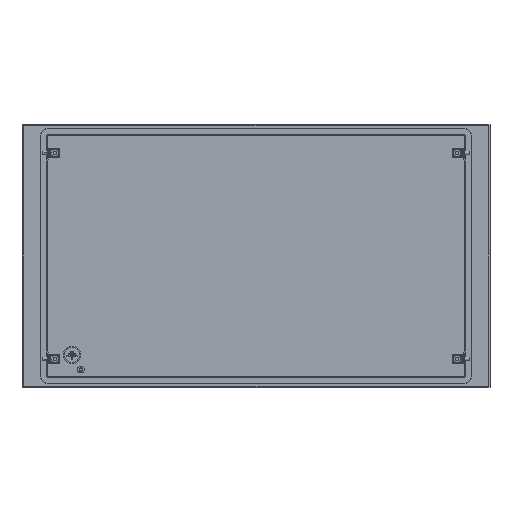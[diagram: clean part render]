
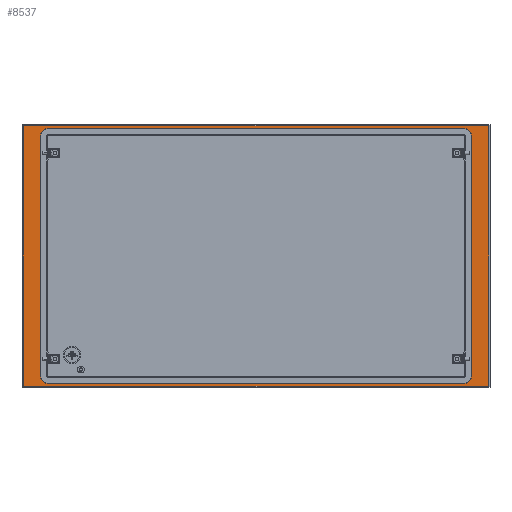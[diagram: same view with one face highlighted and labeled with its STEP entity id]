
A CAD part, left-side view. The second image highlights one B-rep face of the part: STEP entity #8537.
In plain terms, the highlighted planar face has unit normal (-1, 0, 0).
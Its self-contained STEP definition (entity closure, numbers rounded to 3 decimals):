
#523 = EDGE_CURVE ( 'NONE', #20564, #13472, #8867, .T. ) ;
#558 = VERTEX_POINT ( 'NONE', #14496 ) ;
#729 = ORIENTED_EDGE ( 'NONE', *, *, #523, .T. ) ;
#779 = EDGE_CURVE ( 'NONE', #7668, #10194, #19080, .T. ) ;
#822 = ORIENTED_EDGE ( 'NONE', *, *, #7409, .T. ) ;
#883 = DIRECTION ( 'NONE',  ( 1., 0., 0. ) ) ;
#1053 = CARTESIAN_POINT ( 'NONE',  ( -2., 395.5, 221. ) ) ;
#1767 = PLANE ( 'NONE',  #15603 ) ;
#2102 = AXIS2_PLACEMENT_3D ( 'NONE', #3282, #883, #22499 ) ;
#2331 = CARTESIAN_POINT ( 'NONE',  ( -2., 0., 221. ) ) ;
#2522 = DIRECTION ( 'NONE',  ( 0., -1., 0. ) ) ;
#2584 = CIRCLE ( 'NONE', #12875, 14. ) ;
#3201 = DIRECTION ( 'NONE',  ( 0., 0., 1. ) ) ;
#3282 = CARTESIAN_POINT ( 'NONE',  ( -2., -352.5, -203. ) ) ;
#3383 = EDGE_CURVE ( 'NONE', #7668, #9362, #13545, .T. ) ;
#3514 = EDGE_LOOP ( 'NONE', ( #5563, #4329, #15814, #6604, #729, #10482, #17433, #14464 ) ) ;
#3543 = CARTESIAN_POINT ( 'NONE',  ( -2., -395.5, 0. ) ) ;
#4041 = DIRECTION ( 'NONE',  ( 0., 1., 0. ) ) ;
#4329 = ORIENTED_EDGE ( 'NONE', *, *, #3383, .T. ) ;
#4439 = LINE ( 'NONE', #21858, #18598 ) ;
#4996 = CARTESIAN_POINT ( 'NONE',  ( -2., -352.5, -217. ) ) ;
#5563 = ORIENTED_EDGE ( 'NONE', *, *, #779, .F. ) ;
#6496 = EDGE_CURVE ( 'NONE', #10194, #12748, #8165, .T. ) ;
#6604 = ORIENTED_EDGE ( 'NONE', *, *, #15877, .T. ) ;
#6771 = LINE ( 'NONE', #16137, #17689 ) ;
#6888 = LINE ( 'NONE', #8828, #12759 ) ;
#7409 = EDGE_CURVE ( 'NONE', #14954, #558, #6888, .T. ) ;
#7623 = CARTESIAN_POINT ( 'NONE',  ( -2., -352.5, 217. ) ) ;
#7668 = VERTEX_POINT ( 'NONE', #16605 ) ;
#8102 = CARTESIAN_POINT ( 'NONE',  ( -2., 366.5, 203. ) ) ;
#8165 = LINE ( 'NONE', #19541, #22055 ) ;
#8519 = DIRECTION ( 'NONE',  ( -1., 0., 0. ) ) ;
#8537 = ADVANCED_FACE ( 'NONE', ( #21218, #17629 ), #1767, .F. ) ;
#8828 = CARTESIAN_POINT ( 'NONE',  ( -2., 395.5, 0. ) ) ;
#8843 = DIRECTION ( 'NONE',  ( 1., 0., 0. ) ) ;
#8867 = CIRCLE ( 'NONE', #9668, 14. ) ;
#9299 = EDGE_CURVE ( 'NONE', #9362, #12705, #13212, .T. ) ;
#9362 = VERTEX_POINT ( 'NONE', #19296 ) ;
#9429 = DIRECTION ( 'NONE',  ( 0., 0., -1. ) ) ;
#9598 = DIRECTION ( 'NONE',  ( 0., 0., 1. ) ) ;
#9668 = AXIS2_PLACEMENT_3D ( 'NONE', #18427, #8843, #14736 ) ;
#9894 = EDGE_CURVE ( 'NONE', #13472, #20203, #6771, .T. ) ;
#10181 = DIRECTION ( 'NONE',  ( 0., 1., 0. ) ) ;
#10194 = VERTEX_POINT ( 'NONE', #7623 ) ;
#10482 = ORIENTED_EDGE ( 'NONE', *, *, #9894, .T. ) ;
#10574 = EDGE_CURVE ( 'NONE', #12748, #20203, #2584, .T. ) ;
#10763 = CARTESIAN_POINT ( 'NONE',  ( -2., -352.5, -217. ) ) ;
#11395 = VECTOR ( 'NONE', #9429, 1000. ) ;
#11813 = EDGE_CURVE ( 'NONE', #558, #19442, #4439, .T. ) ;
#12120 = LINE ( 'NONE', #2331, #25050 ) ;
#12573 = DIRECTION ( 'NONE',  ( 0., 1., 0. ) ) ;
#12705 = VERTEX_POINT ( 'NONE', #4996 ) ;
#12748 = VERTEX_POINT ( 'NONE', #17652 ) ;
#12759 = VECTOR ( 'NONE', #19044, 1000. ) ;
#12760 = CARTESIAN_POINT ( 'NONE',  ( -2., 352.5, 203. ) ) ;
#12875 = AXIS2_PLACEMENT_3D ( 'NONE', #12760, #18591, #3201 ) ;
#13212 = CIRCLE ( 'NONE', #2102, 14. ) ;
#13293 = EDGE_CURVE ( 'NONE', #19442, #20496, #13960, .T. ) ;
#13472 = VERTEX_POINT ( 'NONE', #19649 ) ;
#13545 = LINE ( 'NONE', #15327, #11395 ) ;
#13579 = DIRECTION ( 'NONE',  ( 1., 0., 0. ) ) ;
#13960 = LINE ( 'NONE', #3543, #25171 ) ;
#14224 = DIRECTION ( 'NONE',  ( 0., 0., 1. ) ) ;
#14464 = ORIENTED_EDGE ( 'NONE', *, *, #6496, .F. ) ;
#14483 = LINE ( 'NONE', #10763, #24952 ) ;
#14496 = CARTESIAN_POINT ( 'NONE',  ( -2., 395.5, -221. ) ) ;
#14736 = DIRECTION ( 'NONE',  ( 0., 0., -1. ) ) ;
#14954 = VERTEX_POINT ( 'NONE', #1053 ) ;
#15327 = CARTESIAN_POINT ( 'NONE',  ( -2., -366.5, 0. ) ) ;
#15603 = AXIS2_PLACEMENT_3D ( 'NONE', #23241, #13579, #9598 ) ;
#15767 = CARTESIAN_POINT ( 'NONE',  ( -2., 352.5, -217. ) ) ;
#15814 = ORIENTED_EDGE ( 'NONE', *, *, #9299, .T. ) ;
#15877 = EDGE_CURVE ( 'NONE', #12705, #20564, #14483, .T. ) ;
#16137 = CARTESIAN_POINT ( 'NONE',  ( -2., 366.5, -203. ) ) ;
#16605 = CARTESIAN_POINT ( 'NONE',  ( -2., -366.5, 203. ) ) ;
#16834 = EDGE_LOOP ( 'NONE', ( #20896, #23702, #822, #19331 ) ) ;
#17042 = CARTESIAN_POINT ( 'NONE',  ( -2., -395.5, 221. ) ) ;
#17433 = ORIENTED_EDGE ( 'NONE', *, *, #10574, .F. ) ;
#17629 = FACE_BOUND ( 'NONE', #3514, .T. ) ;
#17652 = CARTESIAN_POINT ( 'NONE',  ( -2., 352.5, 217. ) ) ;
#17689 = VECTOR ( 'NONE', #14224, 1000. ) ;
#17848 = AXIS2_PLACEMENT_3D ( 'NONE', #20017, #8519, #18725 ) ;
#18427 = CARTESIAN_POINT ( 'NONE',  ( -2., 352.5, -203. ) ) ;
#18591 = DIRECTION ( 'NONE',  ( -1., 0., 0. ) ) ;
#18598 = VECTOR ( 'NONE', #2522, 1000. ) ;
#18637 = EDGE_CURVE ( 'NONE', #20496, #14954, #12120, .T. ) ;
#18725 = DIRECTION ( 'NONE',  ( 0., -1., 0. ) ) ;
#19044 = DIRECTION ( 'NONE',  ( 0., 0., -1. ) ) ;
#19080 = CIRCLE ( 'NONE', #17848, 14. ) ;
#19296 = CARTESIAN_POINT ( 'NONE',  ( -2., -366.5, -203. ) ) ;
#19331 = ORIENTED_EDGE ( 'NONE', *, *, #11813, .T. ) ;
#19442 = VERTEX_POINT ( 'NONE', #24873 ) ;
#19541 = CARTESIAN_POINT ( 'NONE',  ( -2., -352.5, 217. ) ) ;
#19649 = CARTESIAN_POINT ( 'NONE',  ( -2., 366.5, -203. ) ) ;
#20017 = CARTESIAN_POINT ( 'NONE',  ( -2., -352.5, 203. ) ) ;
#20203 = VERTEX_POINT ( 'NONE', #8102 ) ;
#20496 = VERTEX_POINT ( 'NONE', #17042 ) ;
#20564 = VERTEX_POINT ( 'NONE', #15767 ) ;
#20896 = ORIENTED_EDGE ( 'NONE', *, *, #13293, .T. ) ;
#21218 = FACE_OUTER_BOUND ( 'NONE', #16834, .T. ) ;
#21858 = CARTESIAN_POINT ( 'NONE',  ( -2., 0., -221. ) ) ;
#22055 = VECTOR ( 'NONE', #4041, 1000. ) ;
#22499 = DIRECTION ( 'NONE',  ( 0., -1., 0. ) ) ;
#23241 = CARTESIAN_POINT ( 'NONE',  ( -2., 0., 0. ) ) ;
#23702 = ORIENTED_EDGE ( 'NONE', *, *, #18637, .T. ) ;
#24873 = CARTESIAN_POINT ( 'NONE',  ( -2., -395.5, -221. ) ) ;
#24952 = VECTOR ( 'NONE', #12573, 1000. ) ;
#25050 = VECTOR ( 'NONE', #10181, 1000. ) ;
#25171 = VECTOR ( 'NONE', #25280, 1000. ) ;
#25280 = DIRECTION ( 'NONE',  ( 0., 0., 1. ) ) ;
